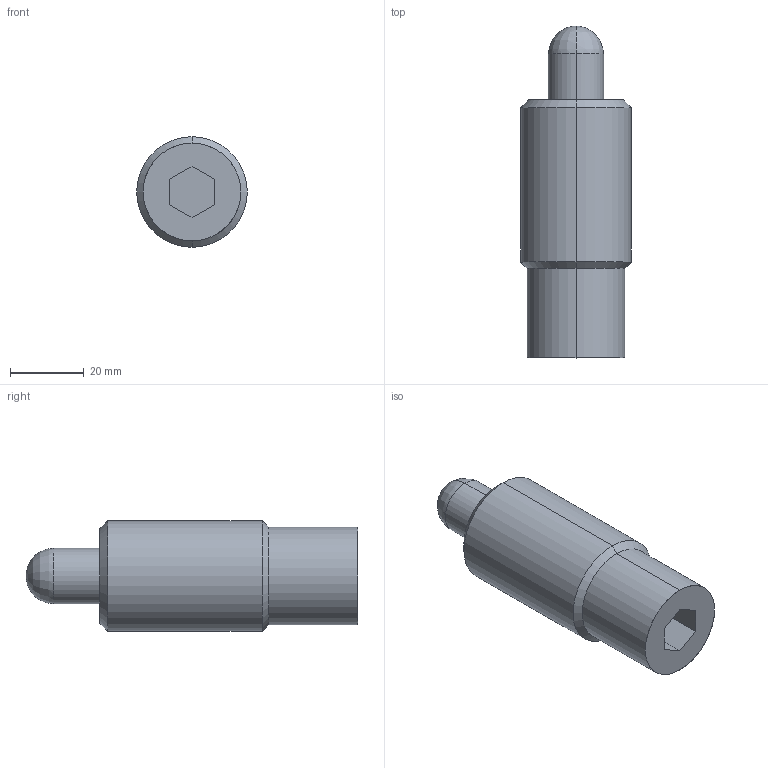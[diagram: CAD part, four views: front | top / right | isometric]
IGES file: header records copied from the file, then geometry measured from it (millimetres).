
Start section: START RECORD GO HERE.
Global section: file name: M314-04-018.igs; native system: DASSAULT SYSTEMES CATIA V5 R20 - www.3ds.com; preprocessor: CATIA Version 5 Release 20 ; author: Utente; organization: NB04-ASUS; date: 20200418.091056; units: millimetre
Bounding box: 30 x 90 x 30 mm (x, y, z)
Surface area: 8783.9 mm2 (no closed solid volume)
Topology: 0 solids, 0 shells, 21 faces, 90 edges, 88 vertices
Faces by surface type: revolution 12, extrusion 9
